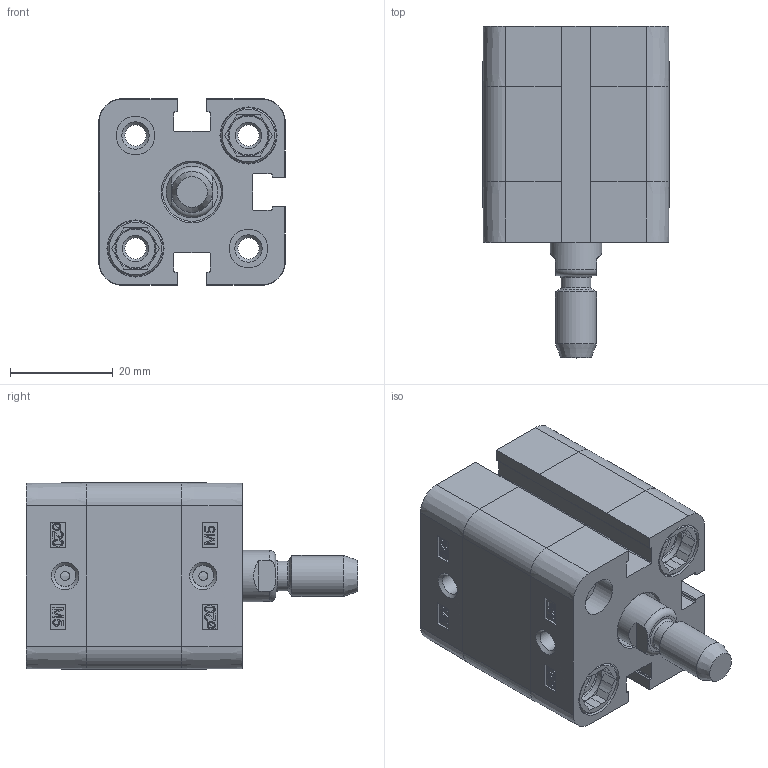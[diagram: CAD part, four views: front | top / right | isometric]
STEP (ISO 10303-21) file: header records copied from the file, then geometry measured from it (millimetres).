
FILE_DESCRIPTION((''),'2;1');
FILE_NAME('T:\Archivio Inventor\- CATALOGHI 2012\SERIE P - NUOVA\PDM\PDM020\PDM020.---.GS.M\STEP\PDM020.005.GS.M.stp','2013-01-30T10:52:08',('Administrator'),(''),'Autodesk Inventor 2012','Autodesk Inventor 2012','');
FILE_SCHEMA(('CONFIG_CONTROL_DESIGN'));
Length unit declared in the file: millimetre
Products named in the file (1): PDM020.005.GS.M
Bounding box: 36.3 x 64.6 x 36.3 mm (x, y, z)
Volume: 36349.6 mm3; surface area: 20034.1 mm2
Topology: 1 solids, 3 shells, 489 faces, 1225 edges, 798 vertices
Faces by surface type: plane 245, bspline 94, cylinder 88, cone 50, torus 12
Full cylindrical faces by diameter (mm): 1.75 x2, 4.134 x10, 5.8 x1, 7.5 x4, 7.55 x2, 8 x9, 9 x1, 10 x1, 10.8 x4, 11.1 x4, 11.4 x1, 20 x1, 22.3 x1, 22.5 x1
Entity records: 15051 total; most frequent: CARTESIAN_POINT 3734, ORIENTED_EDGE 2232, DIRECTION 1950, EDGE_CURVE 1116, VERTEX_POINT 782, VECTOR 670, LINE 670, EDGE_LOOP 652
